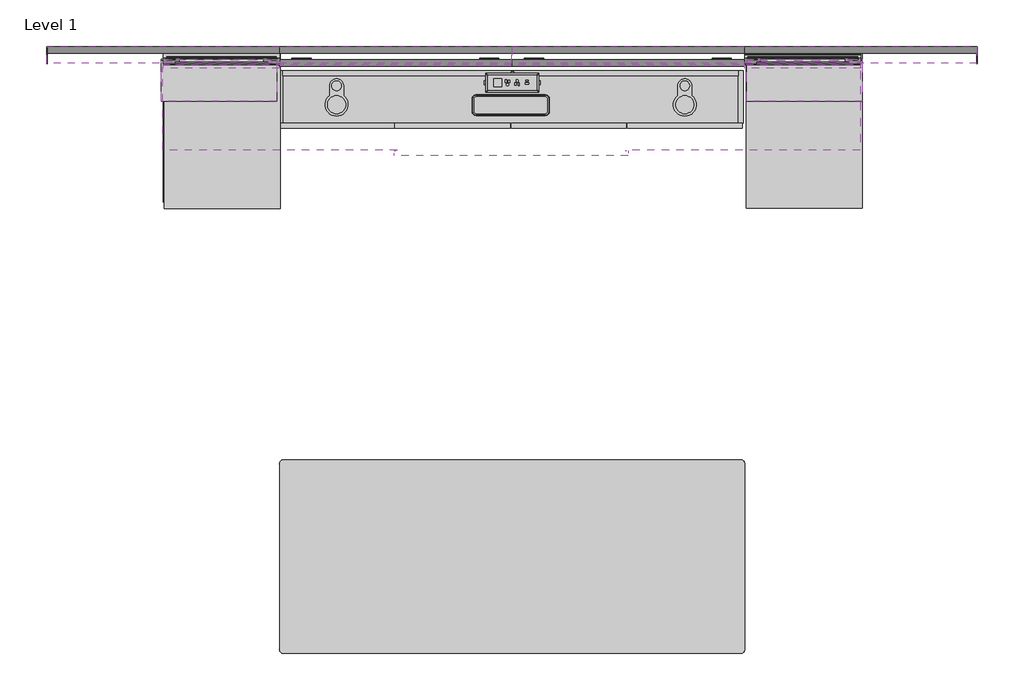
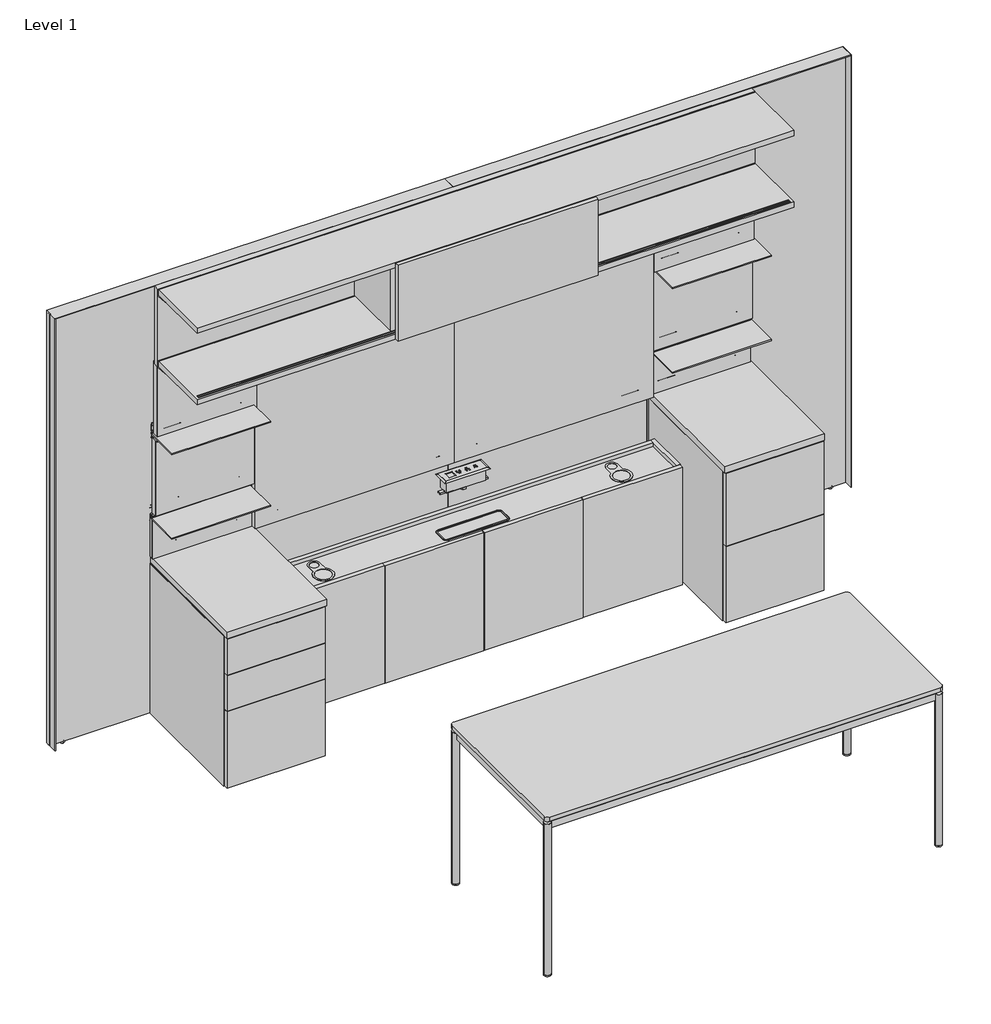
# One storey, incomplete: 28 furniture elements.
"""IFC4 building model written with IfcOpenShell, lengths in millimetres."""

from ifc_helpers import new_model, si_unit, origin, place, context, project, spatial, transform, mapped, element, save
from components import furniture_329ff6ae, furniture_a1201df7, furniture_4adc1bd7, furniture_2c6be22b, furniture_26ee6ef7, furniture_4afd6ab8, furniture_08fd8d59, furniture_9a9e18b9, furniture_62f48795, furniture_f40e33f1, furniture_95511676, furniture_463faf28, furniture_85a4afa4, furniture_ed4ef10b, furniture_46de3d16, in_surface_33791ff7

model = new_model("IFC4")

# Units and contexts
model_context = context("Model", 3, world=origin())
ifc_project = project(units=[si_unit("LENGTHUNIT", "METRE", prefix="MILLI")], contexts=[model_context])

# Site, building, storey
site = spatial("IfcSite", under=ifc_project)
building = spatial("IfcBuilding", under=site)
storey = spatial("IfcBuildingStorey", under=building, Name="Level 1", Elevation=0.0)

# Furniture
placement = place(None, origin())
furniture_shape = furniture_329ff6ae(model_context)
element("IfcFurniture", 1, ObjectType="Geiger_GeigerOneCasegoods_TableParsonsStoneTop : 72Wx30Dx29.75H", at=placement, inside=storey, context=model_context, shape_type="MappedRepresentation", body=[
    mapped(furniture_shape, transform((1797.378579, 2522.3720497, 0.0), x_axis=(1.0, 0.0, 0.0), y_axis=(0.0, 1.0, 0.0), z_axis=(0.0, 0.0, 1.0))),
])
furniture_2_shape = furniture_a1201df7(model_context)
element("IfcFurniture", 2, ObjectType="Geiger_GeigerOneCasegoods_LowStorage2Box1File : Vertical Veneer 18Wx24Dx28.75H", at=placement, inside=storey, context=model_context, shape_type="MappedRepresentation", body=[
    mapped(furniture_2_shape, transform((1340.2431764, 4122.4455308, 0.0), x_axis=(1.0, 0.0, 0.0), y_axis=(0.0, 1.0, 0.0), z_axis=(0.0, 0.0, 1.0))),
])
furniture_3_shape = furniture_4adc1bd7(model_context)
element("IfcFurniture", 3, ObjectType="Geiger_GeigerOneCasegoods_LowStorage2Files : Vertical Veneer 18Wx24Dx28.75H", at=placement, inside=storey, context=model_context, shape_type="MappedRepresentation", body=[
    mapped(furniture_3_shape, transform((3632.2931764, 4122.4455308, 0.0), x_axis=(1.0, 0.0, 0.0), y_axis=(0.0, 1.0, 0.0), z_axis=(0.0, 0.0, 1.0))),
])
furniture_4_shape = furniture_2c6be22b(model_context)
element("IfcFurniture", 4, ObjectType="Geiger_GeigerOneCasegoods_Casegoods_AccessoryShelf : 17.875Wx 6.5Dx 0.375H", at=placement, inside=storey, context=model_context, shape_type="MappedRepresentation", body=[
    mapped(furniture_4_shape, transform((3633.8806764, 4098.0069557, 973.5036), x_axis=(1.0, 0.0, 0.0), y_axis=(0.0, 1.0, 0.0), z_axis=(0.0, 0.0, 1.0))),
])
element("IfcFurniture", 5, ObjectType="Geiger_GeigerOneCasegoods_Casegoods_AccessoryShelf : 17.875Wx 6.5Dx 0.375H", at=placement, inside=storey, context=model_context, shape_type="MappedRepresentation", body=[
    mapped(furniture_4_shape, transform((3633.8806764, 4098.0069557, 1382.9516), x_axis=(1.0, 0.0, 0.0), y_axis=(0.0, 1.0, 0.0), z_axis=(0.0, 0.0, 1.0))),
])
furniture_5_shape = furniture_26ee6ef7(model_context)
element("IfcFurniture", 6, ObjectType="Geiger_GeigerOneCasegoods_OverheadStorageDoubleShelfWithSlidingDoor : Veneer Shelves Horizontal Veneer Back 108Wx 14.125Dx 14.875H", at=placement, inside=storey, context=model_context, shape_type="MappedRepresentation", body=[
    mapped(furniture_5_shape, transform((1337.2431764, 4085.7814867, 1734.0834), x_axis=(1.0, 0.0, 0.0), y_axis=(0.0, 1.0, 0.0), z_axis=(0.0, 0.0, 1.0))),
])
furniture_6_shape = furniture_4afd6ab8(model_context)
element("IfcFurniture", 7, ObjectType="Geiger_GeigerOneCasegoods_CredenzaTopDeskHeightPlain : Veneer 18Wx 24Dx 1.25H", at=placement, inside=storey, context=model_context, shape_type="MappedRepresentation", body=[
    mapped(furniture_6_shape, transform((3632.2931764, 4122.4455308, 742.7766), x_axis=(1.0, 0.0, 0.0), y_axis=(0.0, 1.0, 0.0), z_axis=(0.0, 0.0, 1.0))),
])
element("IfcFurniture", 8, ObjectType="Geiger_GeigerOneCasegoods_CredenzaTopDeskHeightPlain : Veneer 18Wx 24Dx 1.25H", at=placement, inside=storey, context=model_context, shape_type="MappedRepresentation", body=[
    mapped(furniture_6_shape, transform((1343.2431764, 4119.9055308, 742.7766), x_axis=(1.0, 0.0, 0.0), y_axis=(0.0, 1.0, 0.0), z_axis=(0.0, 0.0, 1.0))),
])
furniture_7_shape = furniture_08fd8d59(model_context)
element("IfcFurniture", 9, ObjectType="Geiger_GeigerOneCasegoods_UtilityCabinetForUseWithCredenzaDeskAccepts2Legs : Vertical Veneer 72Wx 8.875Dx 22.5H", at=placement, inside=storey, context=model_context, shape_type="MappedRepresentation", body=[
    mapped(furniture_7_shape, transform((1791.8917337, 4053.3291964, 3.0), x_axis=(1.0, 0.0, 0.0), y_axis=(0.0, 1.0, 0.0), z_axis=(0.0, 0.0, 1.0))),
])
furniture_8_shape = furniture_9a9e18b9(model_context)
element("IfcFurniture", 10, ObjectType="Geiger_GeigerOneCasegoods_WallEndTrim : SingleSided 2.625Wx 0.125Dx 82.625H", at=placement, inside=storey, context=model_context, shape_type="MappedRepresentation", body=[
    mapped(furniture_8_shape, transform((881.0681764, 4115.2830308, 12.7), x_axis=(1.0, 0.0, 0.0), y_axis=(0.0, 1.0, 0.0), z_axis=(0.0, 0.0, 1.0))),
])
element("IfcFurniture", 11, ObjectType="Geiger_GeigerOneCasegoods_WallEndTrim : SingleSided 2.625Wx 0.125Dx 82.625H", at=placement, inside=storey, context=model_context, shape_type="MappedRepresentation", body=[
    mapped(furniture_8_shape, transform((4538.6681764, 4115.2830308, 12.7), x_axis=(1.0, 0.0, 0.0), y_axis=(0.0, 1.0, 0.0), z_axis=(0.0, 0.0, 1.0))),
])
furniture_9_shape = furniture_62f48795(model_context)
element("IfcFurniture", 12, ObjectType="Geiger_GeigerOneCasegoods_WallFrameStandardApplication : 36Wx1Dx82.5H", at=placement, inside=storey, context=model_context, shape_type="MappedRepresentation", body=[
    mapped(furniture_9_shape, transform((881.0681764, 4147.9455308, 0.0), x_axis=(1.0, 0.0, 0.0), y_axis=(0.0, 1.0, 0.0), z_axis=(0.0, 0.0, 1.0))),
])
element("IfcFurniture", 13, ObjectType="Geiger_GeigerOneCasegoods_WallFrameStandardApplication : 36Wx1Dx82.5H", at=placement, inside=storey, context=model_context, shape_type="MappedRepresentation", body=[
    mapped(furniture_9_shape, transform((1795.4681764, 4147.9455308, 0.0), x_axis=(1.0, 0.0, 0.0), y_axis=(0.0, 1.0, 0.0), z_axis=(0.0, 0.0, 1.0))),
])
element("IfcFurniture", 14, ObjectType="Geiger_GeigerOneCasegoods_WallFrameStandardApplication : 36Wx1Dx82.5H", at=placement, inside=storey, context=model_context, shape_type="MappedRepresentation", body=[
    mapped(furniture_9_shape, transform((2709.8681764, 4147.9455308, 0.0), x_axis=(1.0, 0.0, 0.0), y_axis=(0.0, 1.0, 0.0), z_axis=(0.0, 0.0, 1.0))),
])
element("IfcFurniture", 15, ObjectType="Geiger_GeigerOneCasegoods_WallFrameStandardApplication : 36Wx1Dx82.5H", at=placement, inside=storey, context=model_context, shape_type="MappedRepresentation", body=[
    mapped(furniture_9_shape, transform((3624.2681764, 4147.9455308, 0.0), x_axis=(1.0, 0.0, 0.0), y_axis=(0.0, 1.0, 0.0), z_axis=(0.0, 0.0, 1.0))),
])
furniture_10_shape = furniture_f40e33f1(model_context)
element("IfcFurniture", 16, ObjectType="Geiger_GeigerOneCasegoods_WallTopTrimSingleSidedWall : 72Wx2.625Dx0.125H", at=placement, inside=storey, context=model_context, shape_type="MappedRepresentation", body=[
    mapped(furniture_10_shape, transform((881.0681764, 4114.9455308, 2108.708), x_axis=(1.0, 0.0, 0.0), y_axis=(0.0, 1.0, 0.0), z_axis=(0.0, 0.0, 1.0))),
])
element("IfcFurniture", 17, ObjectType="Geiger_GeigerOneCasegoods_WallTopTrimSingleSidedWall : 72Wx2.625Dx0.125H", at=placement, inside=storey, context=model_context, shape_type="MappedRepresentation", body=[
    mapped(furniture_10_shape, transform((2709.8681764, 4114.9455308, 2108.708), x_axis=(1.0, 0.0, 0.0), y_axis=(0.0, 1.0, 0.0), z_axis=(0.0, 0.0, 1.0))),
])
furniture_11_shape = furniture_95511676(model_context)
element("IfcFurniture", 18, ObjectType="Geiger_GeigerOneCasegoods_WallTileAcceptsTileAboveFabric : Fabric 36Wx 1.25Dx 45H", at=placement, inside=storey, context=model_context, shape_type="MappedRepresentation", body=[
    mapped(furniture_11_shape, transform((2709.8681764, 4103.3271316, 777.6545325), x_axis=(1.0, 0.0, 0.0), y_axis=(0.0, 1.0, 0.0), z_axis=(0.0, 0.0, 1.0))),
])
element("IfcFurniture", 19, ObjectType="Geiger_GeigerOneCasegoods_WallTileAcceptsTileAboveFabric : Fabric 36Wx 1.25Dx 45H", at=placement, inside=storey, context=model_context, shape_type="MappedRepresentation", body=[
    mapped(furniture_11_shape, transform((1795.4681764, 4103.3271316, 777.6545325), x_axis=(1.0, 0.0, 0.0), y_axis=(0.0, 1.0, 0.0), z_axis=(0.0, 0.0, 1.0))),
])
furniture_12_shape = furniture_463faf28(model_context)
element("IfcFurniture", 20, ObjectType="Geiger_GeigerOneCasegoods_WallTileAcceptsTileAboveBackPainte : 18Wx 1.25Dx 15H", at=placement, inside=storey, context=model_context, shape_type="MappedRepresentation", body=[
    mapped(furniture_12_shape, transform((3626.2931764, 4088.7905308, 1387.93), x_axis=(1.0, 0.0, 0.0), y_axis=(0.0, 1.0, 0.0), z_axis=(0.0, 0.0, 1.0))),
])
element("IfcFurniture", 21, ObjectType="Geiger_GeigerOneCasegoods_WallTileAcceptsTileAboveBackPainte : 18Wx 1.25Dx 15H", at=placement, inside=storey, context=model_context, shape_type="MappedRepresentation", body=[
    mapped(furniture_12_shape, transform((1340.2931764, 4089.4570891, 1362.53), x_axis=(1.0, 0.0, 0.0), y_axis=(0.0, 1.0, 0.0), z_axis=(0.0, 0.0, 1.0))),
])
furniture_13_shape = furniture_85a4afa4(model_context)
element("IfcFurniture", 22, ObjectType="Geiger_GeigerOneCasegoods_WallTileAcceptsShelfandTil : 18Wx 1.25Dx 15H", at=placement, inside=storey, context=model_context, shape_type="MappedRepresentation", body=[
    mapped(furniture_13_shape, transform((3626.2931764, 4109.0578891, 995.6778), x_axis=(1.0, 0.0, 0.0), y_axis=(0.0, 1.0, 0.0), z_axis=(0.0, 0.0, 1.0))),
])
element("IfcFurniture", 23, ObjectType="Geiger_GeigerOneCasegoods_WallTileAcceptsShelfandTil : 18Wx 1.25Dx 15H", at=placement, inside=storey, context=model_context, shape_type="MappedRepresentation", body=[
    mapped(furniture_13_shape, transform((1340.2931764, 4109.0578891, 995.6778), x_axis=(1.0, 0.0, 0.0), y_axis=(0.0, 1.0, 0.0), z_axis=(0.0, 0.0, 1.0))),
])
furniture_14_shape = furniture_ed4ef10b(model_context)
element("IfcFurniture", 24, ObjectType="Geiger_GeigerOneCasegoods_WallTileAcceptsShelfandTil : 18Wx 1.25Dx 7.5H", at=placement, inside=storey, context=model_context, shape_type="MappedRepresentation", body=[
    mapped(furniture_14_shape, transform((1340.2931764, 4129.0851003, 774.5266), x_axis=(1.0, 0.0, 0.0), y_axis=(0.0, 1.0, 0.0), z_axis=(0.0, 0.0, 1.0))),
])
element("IfcFurniture", 25, ObjectType="Geiger_GeigerOneCasegoods_WallTileAcceptsShelfandTil : 18Wx 1.25Dx 7.5H", at=placement, inside=storey, context=model_context, shape_type="MappedRepresentation", body=[
    mapped(furniture_14_shape, transform((3625.9431764, 4122.4963308, 776.5266), x_axis=(1.0, 0.0, 0.0), y_axis=(0.0, 1.0, 0.0), z_axis=(0.0, 0.0, 1.0))),
])
furniture_15_shape = furniture_46de3d16(model_context)
element("IfcFurniture", 26, ObjectType="Geiger_GeigerOneCasegoods_Casegoods_AccessoryShelf : 17.875Wx 6.5Dx 0.375H", at=placement, inside=storey, context=model_context, shape_type="MappedRepresentation", body=[
    mapped(furniture_15_shape, transform((1785.8556764, 4098.0069557, 973.5036), x_axis=(-1.0, 0.0, 0.0), y_axis=(0.0, -1.0, 0.0), z_axis=(0.0, 0.0, 1.0))),
])
element("IfcFurniture", 27, ObjectType="Geiger_GeigerOneCasegoods_Casegoods_AccessoryShelf : 17.875Wx 6.5Dx 0.375H", at=placement, inside=storey, context=model_context, shape_type="MappedRepresentation", body=[
    mapped(furniture_15_shape, transform((1785.8556764, 4098.0069557, 1382.9516), x_axis=(-1.0, 0.0, 0.0), y_axis=(0.0, -1.0, 0.0), z_axis=(0.0, 0.0, 1.0))),
])
in_surface_shape = in_surface_33791ff7(model_context)
element("IfcFurniture", 28, ObjectType="Geiger_GeigerOneCasegoods_PowerComponent2PowerOutlets1USBA1USBC : In Surface", at=placement, inside=storey, context=model_context, shape_type="MappedRepresentation", body=[
    mapped(in_surface_shape, transform((2712.7384401, 4006.3592798, 774.7560992), x_axis=(1.0, 0.0, 0.0), y_axis=(0.0, 1.0, 0.0), z_axis=(0.0, 0.0, 1.0))),
])

save(model, "model.ifc")
